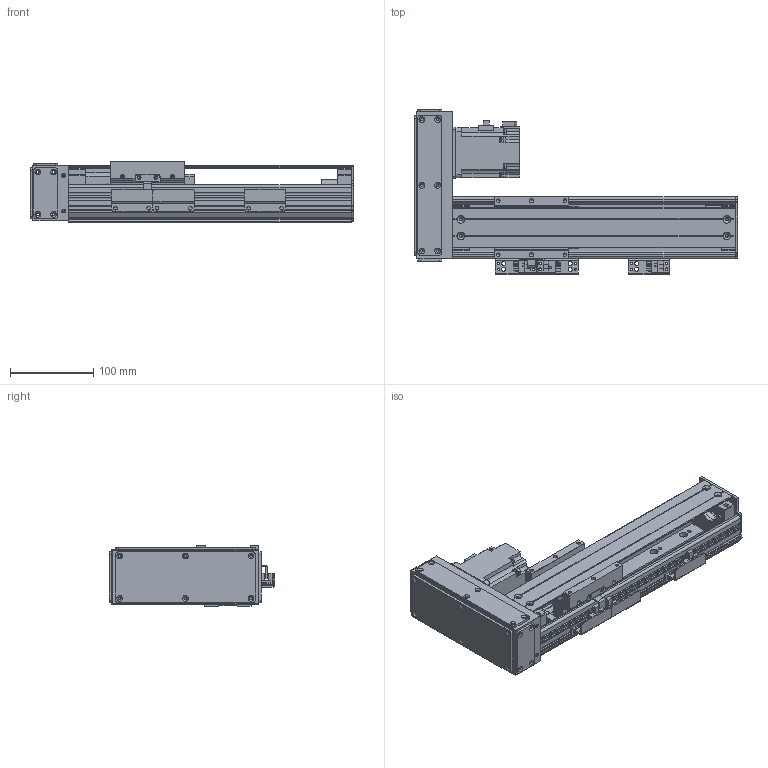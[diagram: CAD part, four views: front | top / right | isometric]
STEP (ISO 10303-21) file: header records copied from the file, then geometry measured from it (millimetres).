
FILE_DESCRIPTION(/* description */ (''),/* implementation_level */ '2;1');
FILE_NAME(/* name */ '\\192.168.0.160\disk1\HAN SHIN Master\B-설계부문\C-표준\B-2024년\BC02-표준도면\+로봇 개선표준도면\홈페이지 표준 도면\홈페이지 최종 작업 폴더\3D\HR\HR75\HR75병렬\좌병렬\HR75-L20-N1B-0150-R10.stp',/* time_stamp */ '2025-01-18T15:00:55+09:00',/* author */ ('user'),/* organization */ (''),/* preprocessor_version */ 'ST-DEVELOPER v18.1',/* originating_system */ 'Autodesk Inventor 2022',/* authorisation */ '');
FILE_SCHEMA (('CONFIG_CONTROL_DESIGN'));
Products named in the file (23): HG75-L20-N1B-0500-R10 - 간소화; BASE; HR75 FRONT BLOCK; HR75 REAR COVER-TENTION; HR75 TENSION REAR BLOCK; HG3UPCOV001; H 15F_BLOCK; HR65,75 SENSOR DOG; HG90STOPPER - 20L; HG90STOPPER - 27L; MOTOR PLATE-200W(MITSUBISHI); HC75-LR-MOTOR PLATE(200W)-사출; 화살표; HR75-LR-BELT COVER(200W); HR75-BELT COVER-COVER2; HR75-BELT COVER-COVER; hg-kr23_; HR65-BELT COVER-COVER3; M-5HL-4; HR75 W TABLE; LMKE1520 NUT; SENSOR BRK(EE-SX674A); EE_SX674A
Assembly tree (28 placements, depth 2):
  HG75-L20-N1B-0500-R10 - 간소화
    BASE
    HR75 FRONT BLOCK
    HR75 REAR COVER-TENTION
    SENSOR BRK(EE-SX674A)  x3
    EE_SX674A  x3
    HR75 TENSION REAR BLOCK
    HG3UPCOV001
    H 15F_BLOCK
    HR65,75 SENSOR DOG
    HG90STOPPER - 20L
    HG90STOPPER - 27L
    MOTOR PLATE-200W(MITSUBISHI)
    HC75-LR-MOTOR PLATE(200W)-사출
    화살표  x2
    HR75-LR-BELT COVER(200W)
    HR75-BELT COVER-COVER2
    HR75-BELT COVER-COVER
    HR65-BELT COVER-COVER3  x2
    hg-kr23_
    M-5HL-4
    HR75 W TABLE
    LMKE1520 NUT
Bounding box: 389 x 199 x 73 mm (x, y, z)
Volume: 1089931.9 mm3; surface area: 457823.4 mm2
Topology: 28 solids, 28 shells, 2900 faces, 7997 edges, 5285 vertices
Faces by surface type: plane 2177, cylinder 608, cone 107, sphere 8
Full cylindrical faces by diameter (mm): 1.8 x1, 2 x4, 2.013 x2, 2.459 x16, 2.5 x2, 3 x8, 3.242 x46, 3.4 x20, 3.5 x6, 4.134 x42, 4.5 x22, 4.917 x5, 5 x31, 5.5 x26, 5.6 x8, 5.8 x4, 5.9 x8, 6 x4, 6.5 x1, 7 x1, 8 x1, 9.5 x22, 14 x1, 15 x3, 17 x1, 20 x1, 25 x2, 28 x1, 32 x2, 33.7 x1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
Entity records: 87639 total; most frequent: CARTESIAN_POINT 15838, ORIENTED_EDGE 14878, DIRECTION 14110, EDGE_CURVE 7439, LINE 6156, VECTOR 6156, VERTEX_POINT 4953, AXIS2_PLACEMENT_3D 3977
